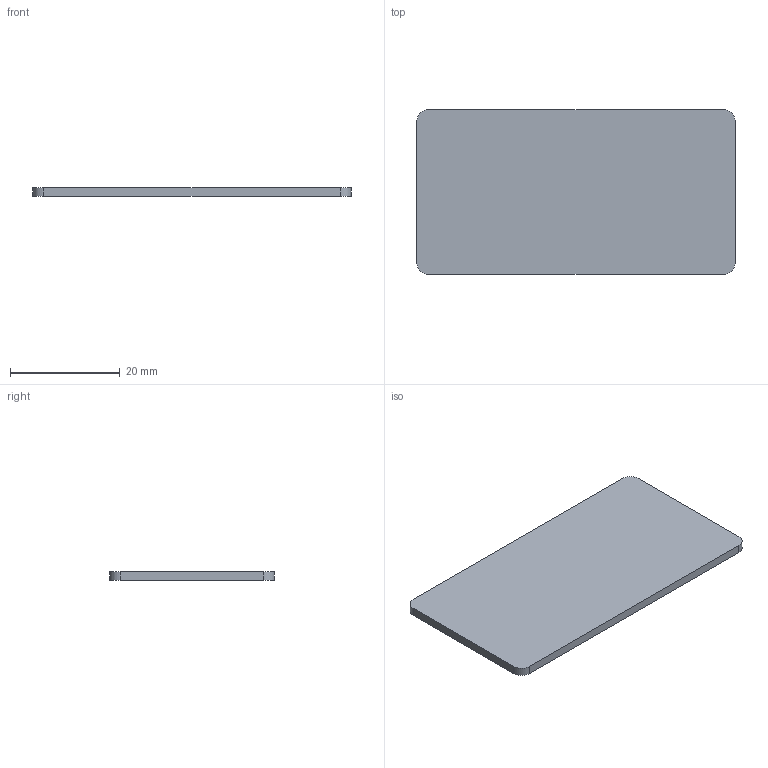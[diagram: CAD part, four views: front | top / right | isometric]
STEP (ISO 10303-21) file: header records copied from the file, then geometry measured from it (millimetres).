
FILE_DESCRIPTION(('Open CASCADE Model'),'2;1');
FILE_NAME('Open CASCADE Shape Model','2026-10-11T00:34:09',('Author'),( 'Open CASCADE'),'Open CASCADE STEP processor 7.8','Open CASCADE 7.8' ,'Unknown');
FILE_SCHEMA(('AUTOMOTIVE_DESIGN { 1 0 10303 214 1 1 1 1 }'));
Length unit declared in the file: millimetre
Products named in the file (1): Open CASCADE STEP translator 7.8 7
Bounding box: 58 x 30 x 1.6 mm (x, y, z)
Volume: 2778.5 mm3; surface area: 3749.2 mm2
Topology: 1 solids, 1 shells, 10 faces, 24 edges, 16 vertices
Faces by surface type: plane 6, cylinder 4
Entity records: 630 total; most frequent: CARTESIAN_POINT 123, DIRECTION 98, LINE 56, VECTOR 56, ORIENTED_EDGE 48, PCURVE 48, DEFINITIONAL_REPRESENTATION 48, EDGE_CURVE 24
